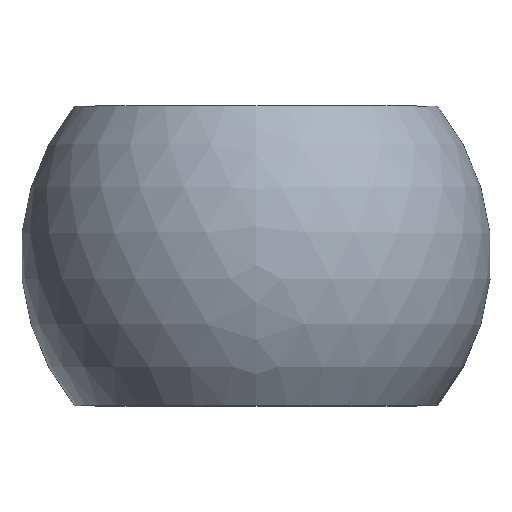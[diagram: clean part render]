
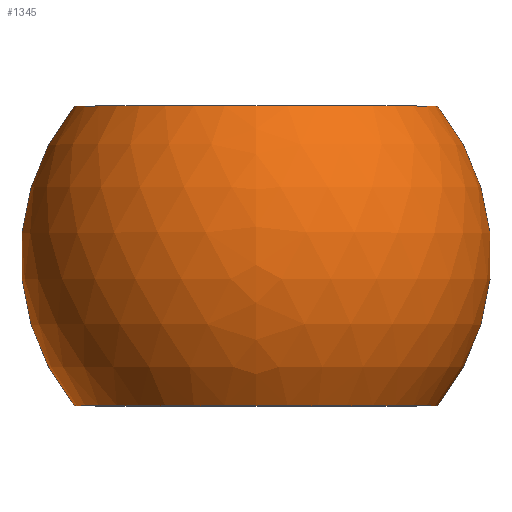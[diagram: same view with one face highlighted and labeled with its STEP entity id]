
A CAD part, top view. The second image highlights one B-rep face of the part: STEP entity #1345.
In plain terms, the highlighted spherical face has radius 55 mm.
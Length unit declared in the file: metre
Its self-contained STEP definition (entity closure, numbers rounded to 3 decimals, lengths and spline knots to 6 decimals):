
#1345=ADVANCED_FACE('',(#2971,#2972),#2973,.T.);
#2971=FACE_OUTER_BOUND('',#4720,.T.);
#2972=FACE_OUTER_BOUND('',#4721,.T.);
#2973=SPHERICAL_SURFACE('',#4722,0.055);
#4720=EDGE_LOOP('',(#6957));
#4721=EDGE_LOOP('',(#6958));
#4722=AXIS2_PLACEMENT_3D('',#6959,#6960,#6961);
#6957=ORIENTED_EDGE('',*,*,#7452,.F.);
#6958=ORIENTED_EDGE('',*,*,#7699,.T.);
#6959=CARTESIAN_POINT('',(0.041129,0.039024,0.));
#6960=DIRECTION('',(0.0,1.0,0.0));
#6961=DIRECTION('',(-1.0,0.0,0.0));
#7452=EDGE_CURVE('',#8407,#8407,#8408,.T.);
#7699=EDGE_CURVE('',#8813,#8813,#8814,.T.);
#8407=VERTEX_POINT('',#9592);
#8408=CIRCLE('',#9593,0.042426);
#8813=VERTEX_POINT('',#9998);
#8814=CIRCLE('',#9999,0.042426);
#9592=CARTESIAN_POINT('',(0.041129,0.074024,0.042426));
#9593=AXIS2_PLACEMENT_3D('',#10862,#10863,#10864);
#9998=CARTESIAN_POINT('',(0.041129,0.004024,0.042426));
#9999=AXIS2_PLACEMENT_3D('',#11339,#11340,#11341);
#10862=CARTESIAN_POINT('',(0.041129,0.074024,0.0));
#10863=DIRECTION('',(0.0,1.0,0.0));
#10864=DIRECTION('',(0.0,0.0,1.0));
#11339=CARTESIAN_POINT('',(0.041129,0.004024,0.0));
#11340=DIRECTION('',(0.0,1.0,0.0));
#11341=DIRECTION('',(0.0,0.0,1.0));
